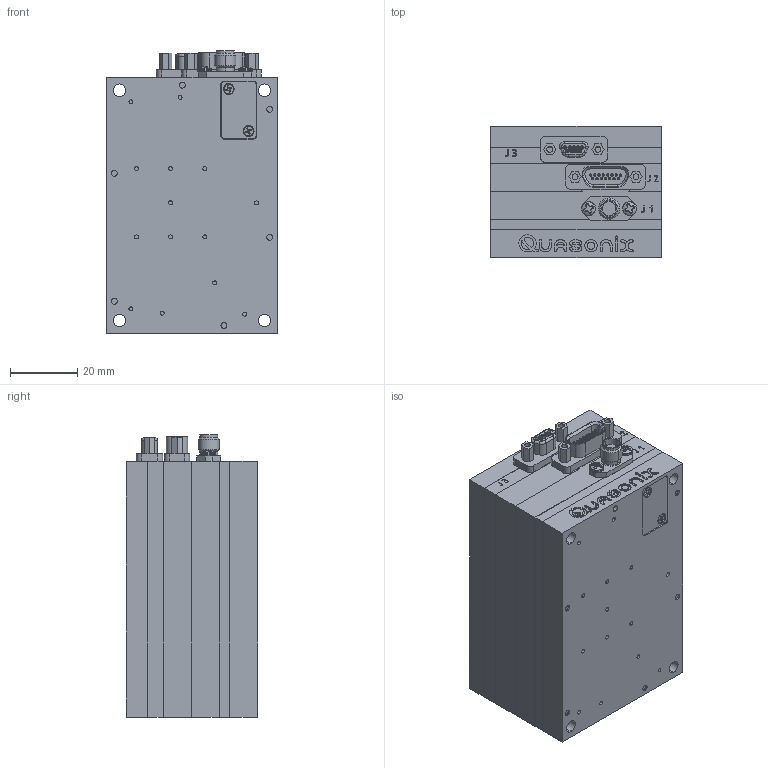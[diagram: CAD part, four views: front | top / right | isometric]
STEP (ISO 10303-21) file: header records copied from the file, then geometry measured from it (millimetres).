
FILE_DESCRIPTION (( 'STEP AP203' ), '1' );
FILE_NAME ('07AJ_9-29-14.STEP', '2014-09-29T19:06:45', ( 'Quasonix' ), ( '' ), 'SwSTEP 2.0', 'SolidWorks 2014', '' );
FILE_SCHEMA (( 'CONFIG_CONTROL_DESIGN' ));
Length unit declared in the file: inch
Products named in the file (1): 07AJ_9-29-14
Bounding box: 50.8 x 39.03 x 84.14 mm (x, y, z)
Surface area: 30721.2 mm2 (no closed solid volume)
Topology: 0 solids, 63 shells, 980 faces, 3358 edges, 2415 vertices
Faces by surface type: plane 500, cylinder 216, cone 165, bspline 80, torus 15, sphere 4
Entity records: 38731 total; most frequent: CARTESIAN_POINT 10242, DIRECTION 5693, ORIENTED_EDGE 5636, EDGE_CURVE 3326, VERTEX_POINT 2415, AXIS2_PLACEMENT_3D 2059, VECTOR 1575, LINE 1575
